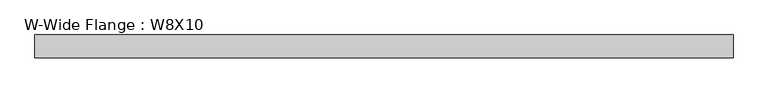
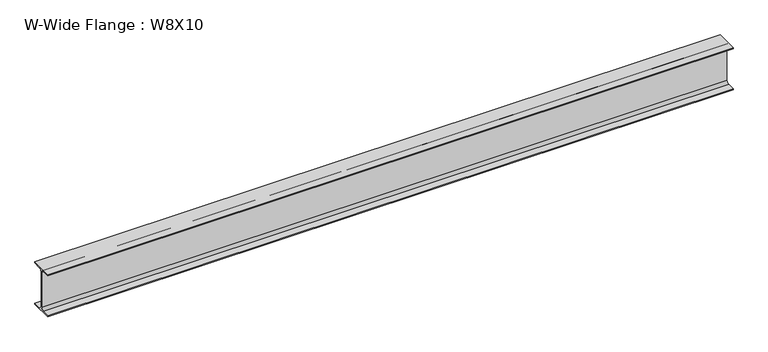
"""IFC4 building model written with IfcOpenShell, lengths in millimetres: beam geometry, W-Wide Flange : W8X10."""

from ifc_helpers import new_model, si_unit, point, frame, frame_2d, origin, place, context, project, spatial, polyline, circle_curve, trimmed, segment, composite_curve, outline, extrude, source, transform, mapped, element, save


def w_wide_flange_w8x10_f623109c(model_context):
    return source(origin(), model_context, "Body", "SweptSolid", [
        extrude(outline(composite_curve([segment(polyline([(50.038, -94.996), (50.038, -100.203), (-50.038, -100.203), (-50.038, -94.996), (-14.4145, -94.996)]), True, "CONTINUOUS"), segment(trimmed(circle_curve(frame_2d((-14.4145, -82.7405)), 12.2555), [point((-14.4145, -94.996))], [point((-2.159, -82.7405))], True, "CARTESIAN"), True, "CONTINUOUS"), segment(polyline([(-2.159, -82.7405), (-2.159, 82.7405)]), True, "CONTINUOUS"), segment(trimmed(circle_curve(frame_2d((-14.4145, 82.7405)), 12.2555), [point((-2.159, 82.7405))], [point((-14.4145, 94.996))], True, "CARTESIAN"), True, "CONTINUOUS"), segment(polyline([(-14.4145, 94.996), (-50.038, 94.996), (-50.038, 100.203), (50.038, 100.203), (50.038, 94.996), (14.4145, 94.996)]), True, "CONTINUOUS"), segment(trimmed(circle_curve(frame_2d((14.4145, 82.7405)), 12.2555), [point((14.4145, 94.996))], [point((2.159, 82.7405))], True, "CARTESIAN"), True, "CONTINUOUS"), segment(polyline([(2.159, 82.7405), (2.159, -82.7405)]), True, "CONTINUOUS"), segment(trimmed(circle_curve(frame_2d((14.4145, -82.7405)), 12.2555), [point((2.159, -82.7405))], [point((14.4145, -94.996))], True, "CARTESIAN"), True, "CONTINUOUS"), segment(polyline([(14.4145, -94.996), (50.038, -94.996)]), True, "CONTINUOUS")], self_intersect=False)), frame((-1537.4441406, 0.0, 0.0), z_axis=(1.0, 0.0, 0.0), x_axis=(0.0, 1.0, 0.0)), (0.0, 0.0, 1.0), 3074.8882813),
    ])


if __name__ == "__main__":
    model = new_model("IFC4")
    model_context = context("Model", 3, world=origin())
    ifc_project = project(units=[si_unit("LENGTHUNIT", "METRE", prefix="MILLI")], contexts=[model_context])
    site = spatial("IfcSite", under=ifc_project)
    building = spatial("IfcBuilding", under=site)
    placement = place(None, origin())
    w_wide_flange_w8x10_shape = w_wide_flange_w8x10_f623109c(model_context)
    element("IfcBeam", 1, ObjectType="W-Wide Flange : W8X10", at=placement, inside=building, context=model_context, shape_type="MappedRepresentation", body=[
        mapped(w_wide_flange_w8x10_shape, transform((0.0, 0.0, 0.0), x_axis=(1.0, 0.0, 0.0), y_axis=(0.0, 1.0, 0.0), z_axis=(0.0, 0.0, 1.0))),
    ])
    save(model, "model.ifc")
